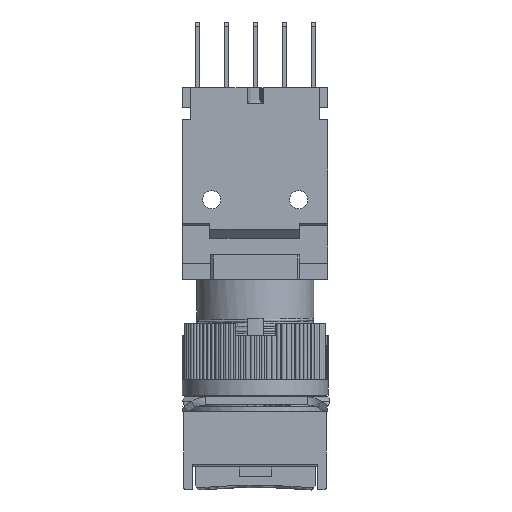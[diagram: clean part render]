
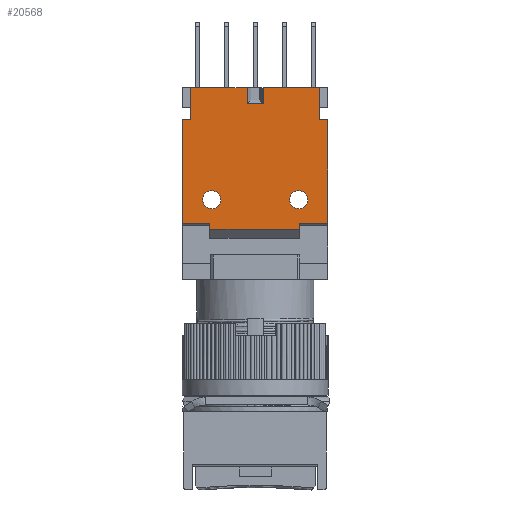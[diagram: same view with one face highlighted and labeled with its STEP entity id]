
A CAD part, front view. The second image highlights one B-rep face of the part: STEP entity #20568.
In plain terms, the highlighted planar face has unit normal (0, -1, 0).
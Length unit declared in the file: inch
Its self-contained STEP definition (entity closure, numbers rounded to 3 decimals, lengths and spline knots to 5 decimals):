
#240=DIRECTION('',(0.,0.,1.));
#241=VECTOR('',#240,4.);
#242=CARTESIAN_POINT('',(17.1,0.,-12.2));
#243=LINE('',#242,#241);
#324=DIRECTION('',(-1.,0.,0.));
#325=VECTOR('',#324,1.);
#326=CARTESIAN_POINT('',(18.1,0.,-12.2));
#327=LINE('',#326,#325);
#340=DIRECTION('',(1.,0.,0.));
#341=VECTOR('',#340,7.05);
#342=CARTESIAN_POINT('',(10.05,0.,-8.2));
#343=LINE('',#342,#341);
#344=DIRECTION('',(0.,0.,-1.));
#345=VECTOR('',#344,12.9);
#346=CARTESIAN_POINT('',(18.1,0.,-12.2));
#347=LINE('',#346,#345);
#348=DIRECTION('',(0.,0.,-1.));
#349=VECTOR('',#348,0.75);
#350=CARTESIAN_POINT('',(14.6,0.,-25.1));
#351=LINE('',#350,#349);
#352=DIRECTION('',(0.,0.,1.));
#353=VECTOR('',#352,12.9);
#354=CARTESIAN_POINT('',(0.,0.,-25.1));
#355=LINE('',#354,#353);
#356=DIRECTION('',(0.,0.,1.));
#357=VECTOR('',#356,4.);
#358=CARTESIAN_POINT('',(1.,0.,-12.2));
#359=LINE('',#358,#357);
#360=DIRECTION('',(1.,0.,0.));
#361=VECTOR('',#360,7.05);
#362=CARTESIAN_POINT('',(1.,0.,-8.2));
#363=LINE('',#362,#361);
#364=CARTESIAN_POINT('',(14.475,0.,-22.165));
#365=DIRECTION('',(0.,-1.,0.));
#366=DIRECTION('',(-1.,0.,0.));
#367=AXIS2_PLACEMENT_3D('',#364,#365,#366);
#369=CARTESIAN_POINT('',(14.475,0.,-22.165));
#370=DIRECTION('',(0.,-1.,0.));
#371=DIRECTION('',(1.,0.,0.));
#372=AXIS2_PLACEMENT_3D('',#369,#370,#371);
#374=CARTESIAN_POINT('',(3.625,0.,-22.165));
#375=DIRECTION('',(0.,-1.,0.));
#376=DIRECTION('',(-1.,0.,0.));
#377=AXIS2_PLACEMENT_3D('',#374,#375,#376);
#379=CARTESIAN_POINT('',(3.625,0.,-22.165));
#380=DIRECTION('',(0.,-1.,0.));
#381=DIRECTION('',(1.,0.,0.));
#382=AXIS2_PLACEMENT_3D('',#379,#380,#381);
#384=DIRECTION('',(0.,0.,-1.));
#385=VECTOR('',#384,2.);
#386=CARTESIAN_POINT('',(10.05,0.,-8.2));
#387=LINE('',#386,#385);
#388=DIRECTION('',(-1.,0.,0.));
#389=VECTOR('',#388,2.);
#390=CARTESIAN_POINT('',(10.05,0.,-10.2));
#391=LINE('',#390,#389);
#400=DIRECTION('',(0.,0.,1.));
#401=VECTOR('',#400,2.);
#402=CARTESIAN_POINT('',(8.05,0.,-10.2));
#403=LINE('',#402,#401);
#424=DIRECTION('',(1.,0.,0.));
#425=VECTOR('',#424,3.5);
#426=CARTESIAN_POINT('',(14.6,0.,-25.1));
#427=LINE('',#426,#425);
#15424=DIRECTION('',(1.,0.,0.));
#15425=VECTOR('',#15424,3.4);
#15426=CARTESIAN_POINT('',(0.,0.,-25.1));
#15427=LINE('',#15426,#15425);
#15436=DIRECTION('',(0.,0.,-1.));
#15437=VECTOR('',#15436,0.75);
#15438=CARTESIAN_POINT('',(3.4,0.,-25.1));
#15439=LINE('',#15438,#15437);
#15444=DIRECTION('',(1.,0.,0.));
#15445=VECTOR('',#15444,11.2);
#15446=CARTESIAN_POINT('',(3.4,0.,-25.85));
#15447=LINE('',#15446,#15445);
#15492=DIRECTION('',(-1.,0.,0.));
#15493=VECTOR('',#15492,1.);
#15494=CARTESIAN_POINT('',(1.,0.,-12.2));
#15495=LINE('',#15494,#15493);
#17108=CARTESIAN_POINT('',(18.1,0.,-25.1));
#17109=VERTEX_POINT('',#17108);
#17110=CARTESIAN_POINT('',(18.1,0.,-12.2));
#17111=VERTEX_POINT('',#17110);
#17150=CARTESIAN_POINT('',(17.1,0.,-8.2));
#17151=VERTEX_POINT('',#17150);
#17152=CARTESIAN_POINT('',(10.05,0.,-8.2));
#17153=VERTEX_POINT('',#17152);
#17158=CARTESIAN_POINT('',(8.05,0.,-8.2));
#17159=VERTEX_POINT('',#17158);
#17160=CARTESIAN_POINT('',(1.,0.,-8.2));
#17161=VERTEX_POINT('',#17160);
#17872=CARTESIAN_POINT('',(14.6,0.,-25.1));
#17873=CARTESIAN_POINT('',(14.6,0.,-25.85));
#17874=VERTEX_POINT('',#17872);
#17875=VERTEX_POINT('',#17873);
#17980=CARTESIAN_POINT('',(0.,0.,-12.2));
#17981=VERTEX_POINT('',#17980);
#17982=CARTESIAN_POINT('',(0.,0.,-25.1));
#17984=VERTEX_POINT('',#17982);
#18009=CARTESIAN_POINT('',(1.,0.,-12.2));
#18011=VERTEX_POINT('',#18009);
#18030=CARTESIAN_POINT('',(13.35,0.,-22.165));
#18031=CARTESIAN_POINT('',(15.6,0.,-22.165));
#18032=VERTEX_POINT('',#18030);
#18033=VERTEX_POINT('',#18031);
#18034=CARTESIAN_POINT('',(2.5,0.,-22.165));
#18035=CARTESIAN_POINT('',(4.75,0.,-22.165));
#18036=VERTEX_POINT('',#18034);
#18037=VERTEX_POINT('',#18035);
#18038=CARTESIAN_POINT('',(10.05,0.,-10.2));
#18039=VERTEX_POINT('',#18038);
#18040=CARTESIAN_POINT('',(17.1,0.,-12.2));
#18041=VERTEX_POINT('',#18040);
#18042=CARTESIAN_POINT('',(3.4,0.,-25.85));
#18043=VERTEX_POINT('',#18042);
#18044=CARTESIAN_POINT('',(3.4,0.,-25.1));
#18045=VERTEX_POINT('',#18044);
#18046=CARTESIAN_POINT('',(8.05,0.,-10.2));
#18047=VERTEX_POINT('',#18046);
#20523=CARTESIAN_POINT('',(9.05,0.,-17.025));
#20524=DIRECTION('',(0.,1.,0.));
#20525=DIRECTION('',(1.,0.,0.));
#20526=AXIS2_PLACEMENT_3D('',#20523,#20524,#20525);
#20527=PLANE('',#20526);
#20529=ORIENTED_EDGE('',*,*,#20528,.F.);
#20530=ORIENTED_EDGE('',*,*,#20215,.T.);
#20531=ORIENTED_EDGE('',*,*,#20380,.F.);
#20532=ORIENTED_EDGE('',*,*,#20515,.F.);
#20533=ORIENTED_EDGE('',*,*,#19919,.T.);
#20535=ORIENTED_EDGE('',*,*,#20534,.F.);
#20537=ORIENTED_EDGE('',*,*,#20536,.T.);
#20539=ORIENTED_EDGE('',*,*,#20538,.F.);
#20541=ORIENTED_EDGE('',*,*,#20540,.F.);
#20543=ORIENTED_EDGE('',*,*,#20542,.F.);
#20544=ORIENTED_EDGE('',*,*,#20052,.T.);
#20546=ORIENTED_EDGE('',*,*,#20545,.F.);
#20548=ORIENTED_EDGE('',*,*,#20547,.T.);
#20549=ORIENTED_EDGE('',*,*,#20223,.T.);
#20551=ORIENTED_EDGE('',*,*,#20550,.F.);
#20553=ORIENTED_EDGE('',*,*,#20552,.F.);
#20554=EDGE_LOOP('',(#20529,#20530,#20531,#20532,#20533,#20535,#20537,#20539,
#20541,#20543,#20544,#20546,#20548,#20549,#20551,#20553));
#20555=FACE_OUTER_BOUND('',#20554,.F.);
#20557=ORIENTED_EDGE('',*,*,#20556,.T.);
#20559=ORIENTED_EDGE('',*,*,#20558,.T.);
#20560=EDGE_LOOP('',(#20557,#20559));
#20561=FACE_BOUND('',#20560,.F.);
#20563=ORIENTED_EDGE('',*,*,#20562,.T.);
#20565=ORIENTED_EDGE('',*,*,#20564,.T.);
#20566=EDGE_LOOP('',(#20563,#20565));
#20567=FACE_BOUND('',#20566,.F.);
#20568=ADVANCED_FACE('',(#20555,#20561,#20567),#20527,.F.);
#368=CIRCLE('',#367,1.125);
#373=CIRCLE('',#372,1.125);
#378=CIRCLE('',#377,1.125);
#383=CIRCLE('',#382,1.125);
#19919=EDGE_CURVE('',#17111,#17109,#347,.T.);
#20052=EDGE_CURVE('',#17984,#17981,#355,.T.);
#20215=EDGE_CURVE('',#17153,#17151,#343,.T.);
#20223=EDGE_CURVE('',#17161,#17159,#363,.T.);
#20380=EDGE_CURVE('',#18041,#17151,#243,.T.);
#20515=EDGE_CURVE('',#17111,#18041,#327,.T.);
#20528=EDGE_CURVE('',#17153,#18039,#387,.T.);
#20534=EDGE_CURVE('',#17874,#17109,#427,.T.);
#20536=EDGE_CURVE('',#17874,#17875,#351,.T.);
#20538=EDGE_CURVE('',#18043,#17875,#15447,.T.);
#20540=EDGE_CURVE('',#18045,#18043,#15439,.T.);
#20542=EDGE_CURVE('',#17984,#18045,#15427,.T.);
#20545=EDGE_CURVE('',#18011,#17981,#15495,.T.);
#20547=EDGE_CURVE('',#18011,#17161,#359,.T.);
#20550=EDGE_CURVE('',#18047,#17159,#403,.T.);
#20552=EDGE_CURVE('',#18039,#18047,#391,.T.);
#20556=EDGE_CURVE('',#18032,#18033,#368,.T.);
#20558=EDGE_CURVE('',#18033,#18032,#373,.T.);
#20562=EDGE_CURVE('',#18036,#18037,#378,.T.);
#20564=EDGE_CURVE('',#18037,#18036,#383,.T.);
